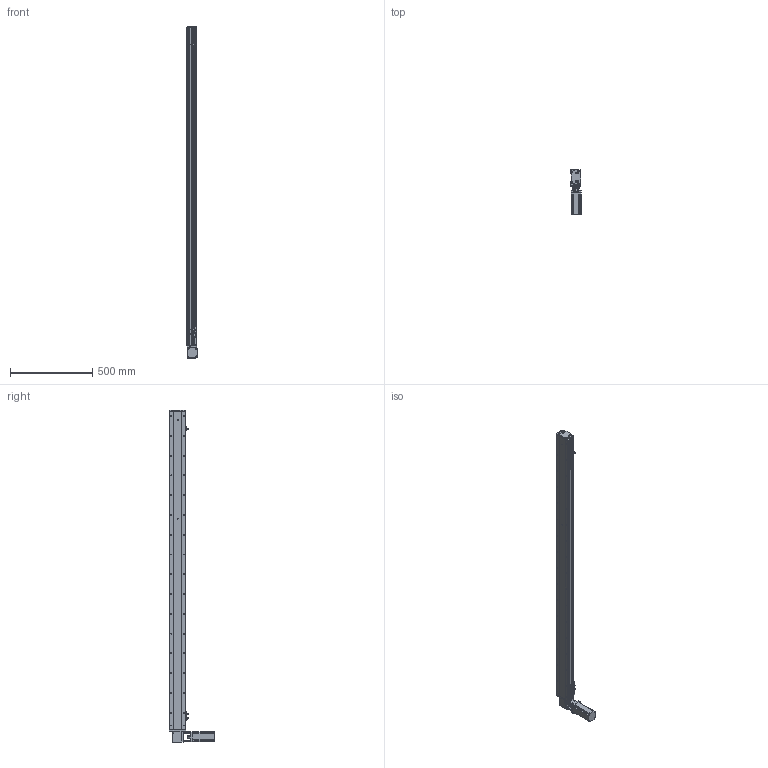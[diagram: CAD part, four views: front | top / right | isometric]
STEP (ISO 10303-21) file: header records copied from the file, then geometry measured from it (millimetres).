
FILE_DESCRIPTION (( 'STEP AP214' ), '1' );
FILE_NAME ('KSD100B-S1750-MLT-CM.STEP', '2019-11-11T05:33:48', ( '微软用户' ), ( '微软中国' ), 'SwSTEP 2.0', 'SolidWorks 2014', '' );
FILE_SCHEMA (( 'AUTOMOTIVE_DESIGN' ));
Length unit declared in the file: millimetre
Products named in the file (12): 100宽安装板同步带带电机座400W,86; 100遵鎮湛假蚾啣1 ; 100宽防尘板1750行程-同步带; U倰嫖萇EEㄜSX672; 覜茼え100遵圉猾敕; 台达ECMA－C20604AS伺服电机; 100宽马达安装板同步带右; 100宽同步带安装板半封闭; 100宽马达安装板同步带; 100遵傷啣肮祭湍; 100宽底板半封闭同步带1750行程; KSD100B-S1750-MLT-CM
Assembly tree (13 placements, depth 2):
  KSD100B-S1750-MLT-CM
    100宽底板半封闭同步带1750行程
    100遵傷啣肮祭湍
    100宽马达安装板同步带
    100宽同步带安装板半封闭
    100宽马达安装板同步带右
    台达ECMA－C20604AS伺服电机
    覜茼え100遵圉猾敕
    U倰嫖萇EEㄜSX672  x3
    100宽防尘板1750行程-同步带
    100遵鎮湛假蚾啣1 
    100宽安装板同步带带电机座400W,86
Bounding box: 61 x 275 x 2015 mm (x, y, z)
Volume: 4151855.6 mm3; surface area: 1403350.9 mm2
Topology: 14 solids, 14 shells, 1678 faces, 4763 edges, 2997 vertices
Faces by surface type: cylinder 888, plane 603, cone 187
Entity records: 61167 total; most frequent: CARTESIAN_POINT 13400, DIRECTION 8331, ORIENTED_EDGE 8058, EDGE_CURVE 4029, AXIS2_PLACEMENT_3D 3090, VERTEX_POINT 2621, VECTOR 2151, LINE 2151
